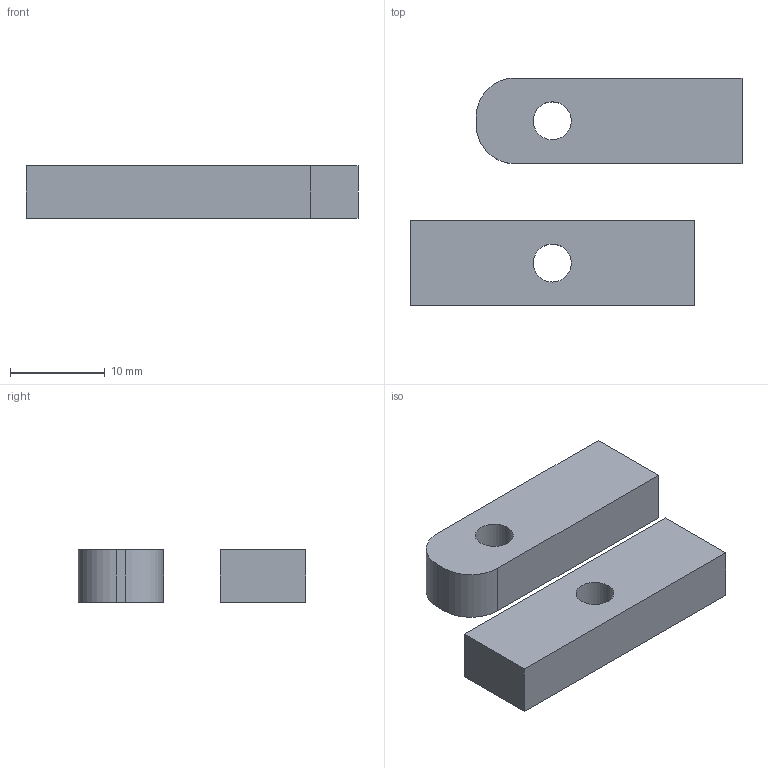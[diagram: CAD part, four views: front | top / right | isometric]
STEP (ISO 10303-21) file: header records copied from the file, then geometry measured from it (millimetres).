
FILE_DESCRIPTION(/* description */ (''),/* implementation_level */ '2;1');
FILE_NAME(/* name */ 'bar_saporter v1.step',/* time_stamp */ '2023-07-05T14:09:17+09:00',/* author */ (''),/* organization */ (''),/* preprocessor_version */ 'ST-DEVELOPER v19.2',/* originating_system */ 'Autodesk Translation Framework v12.6.0.85',/* authorisation */ '');
FILE_SCHEMA (('AUTOMOTIVE_DESIGN { 1 0 10303 214 3 1 1 }'));
Length unit declared in the file: millimetre
Products named in the file (1): bar_saporter
Bounding box: 35 x 24 x 5.5 mm (x, y, z)
Volume: 2695 mm3; surface area: 1935.3 mm2
Topology: 2 solids, 2 shells, 16 faces, 36 edges, 24 vertices
Faces by surface type: plane 12, cylinder 4
Full cylindrical faces by diameter (mm): 4 x2
Entity records: 488 total; most frequent: DIRECTION 78, CARTESIAN_POINT 77, ORIENTED_EDGE 72, EDGE_CURVE 36, LINE 28, VECTOR 28, AXIS2_PLACEMENT_3D 25, VERTEX_POINT 24
